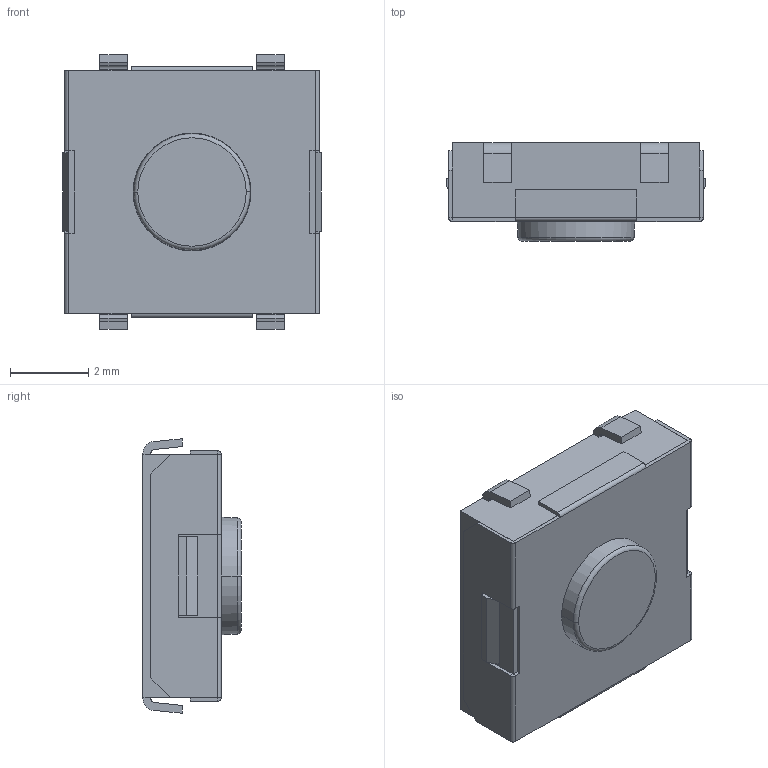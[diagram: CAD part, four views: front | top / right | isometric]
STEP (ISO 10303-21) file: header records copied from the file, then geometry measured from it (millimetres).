
FILE_DESCRIPTION((''),'2;1');
FILE_NAME('JQH6265-B0252-01BG-1_ASM','2026-06-30T11:49:28',('Admin'),(''),'CREO PARAMETRIC BY PTC INC, 2019224','CREO PARAMETRIC BY PTC INC, 2019224','');
FILE_SCHEMA(('AUTOMOTIVE_DESIGN { 1 0 10303 214 1 1 1 1 }'));
Length unit declared in the file: millimetre
Products named in the file (3): JQH6265-B0252-01BG-1_01; JQH6265-B0252-01BG-1_02; JQH6265-B0252-01BG-1_ASM
Assembly tree (2 placements, depth 2):
  JQH6265-B0252-01BG-1_ASM
    JQH6265-B0252-01BG-1_01
    JQH6265-B0252-01BG-1_02
Bounding box: 6.6 x 2.5 x 7 mm (x, y, z)
Volume: 84.5 mm3; surface area: 251.3 mm2
Topology: 2 solids, 2 shells, 115 faces, 288 edges, 178 vertices
Faces by surface type: plane 95, cylinder 16, cone 2, torus 2
Entity records: 4396 total; most frequent: CARTESIAN_POINT 595, DIRECTION 580, ORIENTED_EDGE 572, EDGE_CURVE 286, VECTOR 248, LINE 248, PRESENTATION_STYLE_ASSIGNMENT 181, VERTEX_POINT 174
